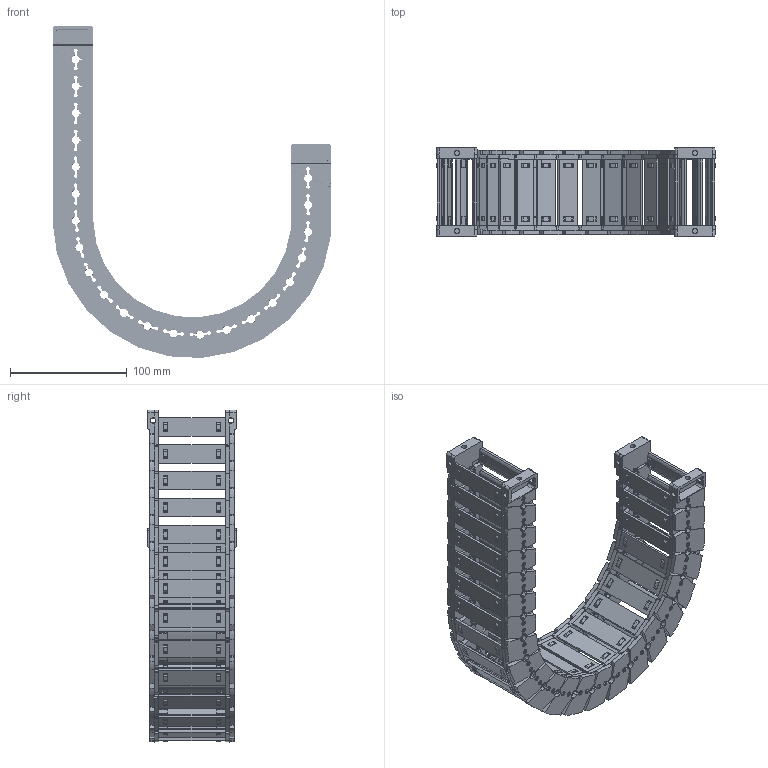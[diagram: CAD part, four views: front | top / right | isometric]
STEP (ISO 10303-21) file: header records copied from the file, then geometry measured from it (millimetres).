
FILE_DESCRIPTION((''),'2;1');
FILE_NAME('JY-28X57-R100_ASM','2026-03-25T19:29:09',('admin'),(''),'CREO PARAMETRIC BY PTC INC, 2021023','CREO PARAMETRIC BY PTC INC, 2021023','');
FILE_SCHEMA(('CONFIG_CONTROL_DESIGN'));
Length unit declared in the file: millimetre
Products named in the file (11): 28XL-L; 25-35XL-YP; 28XL-R; ASM0001_ASM; 28-LTT-A-L; 28-LTT-A-R; 28XL-LTT-A_ASM; 28-LTT-B-L; 28-LTT-B-R; 28XL-LTT-B_ASM; JY-28X57-R100_ASM
Assembly tree (35 placements, depth 3):
  JY-28X57-R100_ASM
    ASM0001_ASM  x21
      28XL-L
      25-35XL-YP
      28XL-R
    28XL-LTT-A_ASM
      28-LTT-A-L
      25-35XL-YP  x2
      28-LTT-A-R
    28XL-LTT-B_ASM
      28-LTT-B-L
      25-35XL-YP  x2
      28-LTT-B-R
Bounding box: 238.21 x 75.5 x 283.78 mm (x, y, z)
Volume: 365023.3 mm3; surface area: 265034 mm2
Topology: 92 solids, 92 shells, 7454 faces, 22156 edges, 14794 vertices
Faces by surface type: plane 4887, cone 1339, cylinder 1072, bspline 156
Entity records: 29119 total; most frequent: CARTESIAN_POINT 9493, ORIENTED_EDGE 4352, DIRECTION 3661, EDGE_CURVE 2176, VERTEX_POINT 1454, VECTOR 1365, LINE 1365, AXIS2_PLACEMENT_3D 1148
